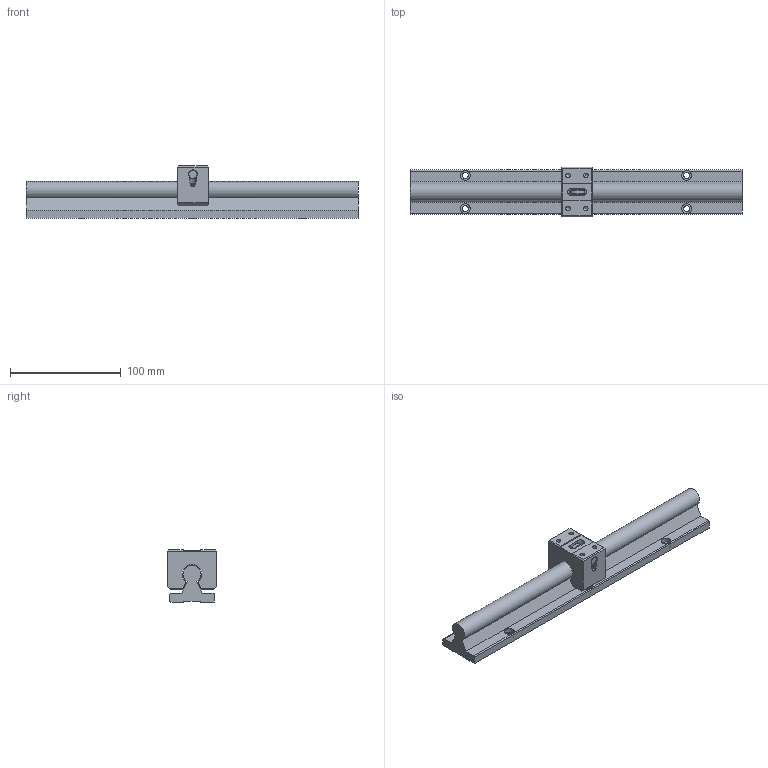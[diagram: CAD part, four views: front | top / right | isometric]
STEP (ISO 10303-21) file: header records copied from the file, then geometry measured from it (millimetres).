
FILE_DESCRIPTION((''),'2;1');
FILE_NAME('D:\製品 (図面)\カタログ用3D\リニアガイド関連\STEP形式\SLGA\SLGA16.stp','2010-06-02T16:54:09',('Tsuchiya'),(''),'Autodesk Inventor 10','Autodesk Inventor 10','');
FILE_SCHEMA(('AUTOMOTIVE_DESIGN { 1 0 10303 214 1 1 1 1 }'));
Length unit declared in the file: millimetre
Products named in the file (3): SLGA16; SLGA161; SLGA162
Assembly tree (2 placements, depth 2):
  SLGA16
    SLGA161
    SLGA162
Bounding box: 300 x 45 x 47 mm (x, y, z)
Volume: 223836.8 mm3; surface area: 55273.2 mm2
Topology: 2 solids, 2 shells, 144 faces, 358 edges, 232 vertices
Faces by surface type: plane 69, bspline 33, cylinder 25, cone 14, torus 3
Full cylindrical faces by diameter (mm): 4.134 x2, 5 x3, 5.5 x3, 8 x3, 13 x3
Entity records: 4413 total; most frequent: CARTESIAN_POINT 1330, DIRECTION 590, ORIENTED_EDGE 574, EDGE_CURVE 287, EDGE_LOOP 224, AXIS2_PLACEMENT_3D 220, VERTEX_POINT 211, VECTOR 150
